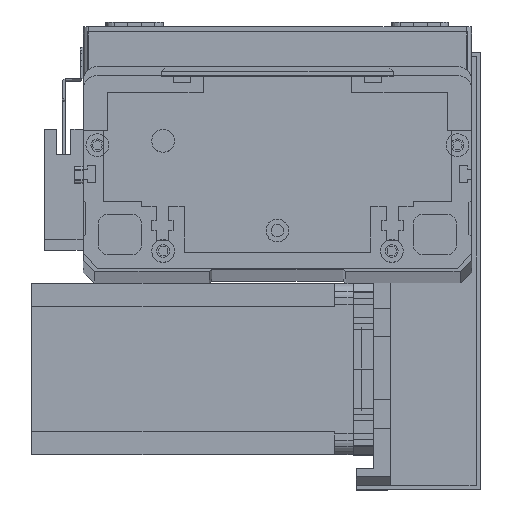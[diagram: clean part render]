
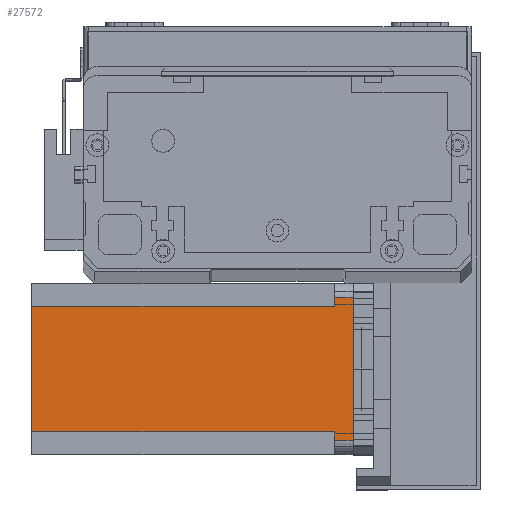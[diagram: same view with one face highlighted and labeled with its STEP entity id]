
A CAD part, top view. The second image highlights one B-rep face of the part: STEP entity #27572.
In plain terms, the highlighted planar face has unit normal (0, 0, 1) as drawn and (0, -1, 0) by its records, which use the part's own axes.
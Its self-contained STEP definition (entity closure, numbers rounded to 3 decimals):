
#184 = CARTESIAN_POINT ( 'NONE',  ( 0., 0., -112.5 ) ) ;
#294 = VERTEX_POINT ( 'NONE', #21681 ) ;
#622 = EDGE_CURVE ( 'NONE', #2556, #294, #4410, .T. ) ;
#807 = LINE ( 'NONE', #12148, #4963 ) ;
#1888 = LINE ( 'NONE', #27245, #25646 ) ;
#2403 = VERTEX_POINT ( 'NONE', #14309 ) ;
#2556 = VERTEX_POINT ( 'NONE', #27077 ) ;
#2801 = CARTESIAN_POINT ( 'NONE',  ( 52., 0., -112.5 ) ) ;
#3322 = EDGE_CURVE ( 'NONE', #2556, #17020, #14352, .T. ) ;
#3741 = EDGE_CURVE ( 'NONE', #2403, #18781, #3844, .T. ) ;
#3808 = ORIENTED_EDGE ( 'NONE', *, *, #3909, .F. ) ;
#3844 = LINE ( 'NONE', #9473, #11050 ) ;
#3909 = EDGE_CURVE ( 'NONE', #5831, #17020, #807, .T. ) ;
#4410 = LINE ( 'NONE', #22444, #5174 ) ;
#4761 = VECTOR ( 'NONE', #6716, 1000. ) ;
#4963 = VECTOR ( 'NONE', #11440, 1000. ) ;
#5127 = EDGE_CURVE ( 'NONE', #9230, #8476, #1888, .T. ) ;
#5174 = VECTOR ( 'NONE', #22747, 1000. ) ;
#5831 = VERTEX_POINT ( 'NONE', #20919 ) ;
#6716 = DIRECTION ( 'NONE',  ( 0., 0., -1. ) ) ;
#7449 = DIRECTION ( 'NONE',  ( 0., -1., 0. ) ) ;
#7566 = EDGE_CURVE ( 'NONE', #18781, #294, #27880, .T. ) ;
#8476 = VERTEX_POINT ( 'NONE', #2801 ) ;
#9230 = VERTEX_POINT ( 'NONE', #27543 ) ;
#9361 = DIRECTION ( 'NONE',  ( 1., 0., 0. ) ) ;
#9473 = CARTESIAN_POINT ( 'NONE',  ( 52., 0., -6.5 ) ) ;
#9601 = LINE ( 'NONE', #17457, #15143 ) ;
#10557 = ORIENTED_EDGE ( 'NONE', *, *, #21654, .F. ) ;
#11050 = VECTOR ( 'NONE', #9361, 1000. ) ;
#11395 = AXIS2_PLACEMENT_3D ( 'NONE', #184, #7449, #24037 ) ;
#11440 = DIRECTION ( 'NONE',  ( -1., 0., 0. ) ) ;
#12148 = CARTESIAN_POINT ( 'NONE',  ( 8., 0., -6.5 ) ) ;
#13212 = DIRECTION ( 'NONE',  ( 1., 0., 0. ) ) ;
#13226 = CARTESIAN_POINT ( 'NONE',  ( 55., 0., -112.5 ) ) ;
#14309 = CARTESIAN_POINT ( 'NONE',  ( 52., 0., -6.5 ) ) ;
#14352 = LINE ( 'NONE', #21853, #19838 ) ;
#15032 = CARTESIAN_POINT ( 'NONE',  ( 5., 0., -6.5 ) ) ;
#15086 = DIRECTION ( 'NONE',  ( 0., 0., 1. ) ) ;
#15143 = VECTOR ( 'NONE', #15086, 1000. ) ;
#15245 = ORIENTED_EDGE ( 'NONE', *, *, #3322, .T. ) ;
#15415 = VECTOR ( 'NONE', #17954, 1000. ) ;
#15681 = ORIENTED_EDGE ( 'NONE', *, *, #3741, .T. ) ;
#16156 = ORIENTED_EDGE ( 'NONE', *, *, #622, .F. ) ;
#17020 = VERTEX_POINT ( 'NONE', #15032 ) ;
#17095 = ORIENTED_EDGE ( 'NONE', *, *, #22647, .F. ) ;
#17457 = CARTESIAN_POINT ( 'NONE',  ( 8., 0., -112.5 ) ) ;
#17836 = CARTESIAN_POINT ( 'NONE',  ( 55., 0., -6.5 ) ) ;
#17954 = DIRECTION ( 'NONE',  ( 0., 0., 1. ) ) ;
#18781 = VERTEX_POINT ( 'NONE', #17836 ) ;
#19373 = ORIENTED_EDGE ( 'NONE', *, *, #7566, .T. ) ;
#19710 = ORIENTED_EDGE ( 'NONE', *, *, #5127, .T. ) ;
#19838 = VECTOR ( 'NONE', #21555, 1000. ) ;
#20859 = FACE_OUTER_BOUND ( 'NONE', #23810, .T. ) ;
#20916 = CARTESIAN_POINT ( 'NONE',  ( 52., 0., -112.5 ) ) ;
#20919 = CARTESIAN_POINT ( 'NONE',  ( 8., 0., -6.5 ) ) ;
#21555 = DIRECTION ( 'NONE',  ( 0., 0., -1. ) ) ;
#21654 = EDGE_CURVE ( 'NONE', #2403, #8476, #29829, .T. ) ;
#21673 = PLANE ( 'NONE',  #11395 ) ;
#21681 = CARTESIAN_POINT ( 'NONE',  ( 55., 0., 0. ) ) ;
#21853 = CARTESIAN_POINT ( 'NONE',  ( 5., 0., -112.5 ) ) ;
#22444 = CARTESIAN_POINT ( 'NONE',  ( 0., 0., 0. ) ) ;
#22647 = EDGE_CURVE ( 'NONE', #9230, #5831, #9601, .T. ) ;
#22747 = DIRECTION ( 'NONE',  ( 1., 0., 0. ) ) ;
#23810 = EDGE_LOOP ( 'NONE', ( #15681, #19373, #16156, #15245, #3808, #17095, #19710, #10557 ) ) ;
#24037 = DIRECTION ( 'NONE',  ( 0., 0., -1. ) ) ;
#25646 = VECTOR ( 'NONE', #13212, 1000. ) ;
#27077 = CARTESIAN_POINT ( 'NONE',  ( 5., 0., 0. ) ) ;
#27245 = CARTESIAN_POINT ( 'NONE',  ( 0., 0., -112.5 ) ) ;
#27543 = CARTESIAN_POINT ( 'NONE',  ( 8., 0., -112.5 ) ) ;
#27572 = ADVANCED_FACE ( 'NONE', ( #20859 ), #21673, .T. ) ;
#27880 = LINE ( 'NONE', #13226, #15415 ) ;
#29829 = LINE ( 'NONE', #20916, #4761 ) ;
